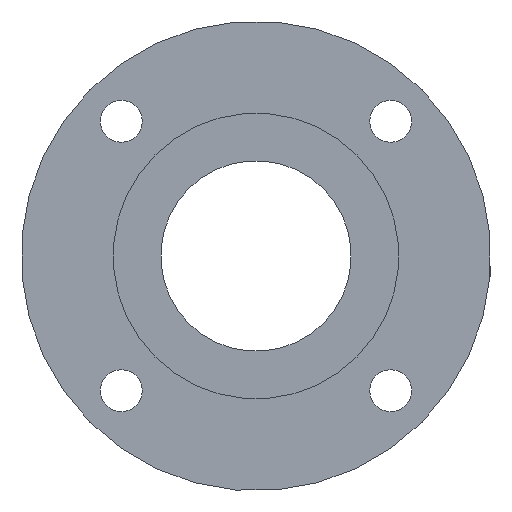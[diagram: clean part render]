
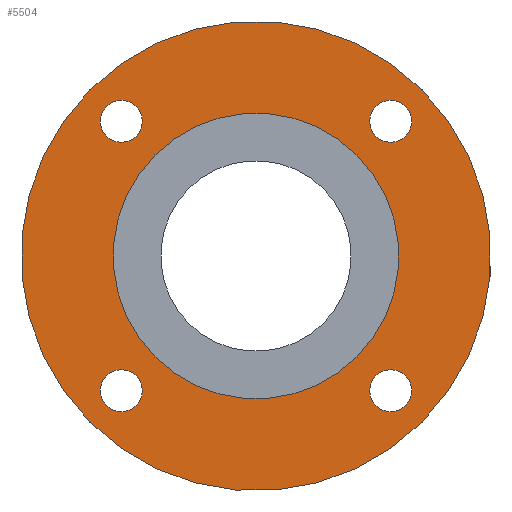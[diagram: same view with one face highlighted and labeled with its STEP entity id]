
A CAD part, left-side view. The second image highlights one B-rep face of the part: STEP entity #5504.
In plain terms, the highlighted planar face has unit normal (-1, 0, 0).
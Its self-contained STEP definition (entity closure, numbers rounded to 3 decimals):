
#111=CIRCLE('',#5855,22.5);
#113=CIRCLE('',#5860,3.3);
#114=CIRCLE('',#5861,3.3);
#115=CIRCLE('',#5862,3.3);
#116=CIRCLE('',#5863,3.3);
#117=CIRCLE('',#5864,37.);
#504=ORIENTED_EDGE('',*,*,#2087,.T.);
#505=ORIENTED_EDGE('',*,*,#2088,.T.);
#506=ORIENTED_EDGE('',*,*,#2089,.T.);
#507=ORIENTED_EDGE('',*,*,#2090,.T.);
#508=ORIENTED_EDGE('',*,*,#2091,.F.);
#509=ORIENTED_EDGE('',*,*,#2085,.T.);
#2085=EDGE_CURVE('',#2878,#2878,#111,.T.);
#2087=EDGE_CURVE('',#2880,#2880,#113,.T.);
#2088=EDGE_CURVE('',#2881,#2881,#114,.T.);
#2089=EDGE_CURVE('',#2882,#2882,#115,.T.);
#2090=EDGE_CURVE('',#2883,#2883,#116,.T.);
#2091=EDGE_CURVE('',#2884,#2884,#117,.T.);
#2878=VERTEX_POINT('',#8740);
#2880=VERTEX_POINT('',#8747);
#2881=VERTEX_POINT('',#8749);
#2882=VERTEX_POINT('',#8751);
#2883=VERTEX_POINT('',#8753);
#2884=VERTEX_POINT('',#8755);
#4507=EDGE_LOOP('',(#504));
#4508=EDGE_LOOP('',(#505));
#4509=EDGE_LOOP('',(#506));
#4510=EDGE_LOOP('',(#507));
#4511=EDGE_LOOP('',(#508));
#4512=EDGE_LOOP('',(#509));
#4906=FACE_BOUND('',#4507,.T.);
#4907=FACE_BOUND('',#4508,.T.);
#4908=FACE_BOUND('',#4509,.T.);
#4909=FACE_BOUND('',#4510,.T.);
#4910=FACE_BOUND('',#4511,.T.);
#4911=FACE_BOUND('',#4512,.T.);
#5253=PLANE('',#5859);
#5504=ADVANCED_FACE('',(#4906,#4907,#4908,#4909,#4910,#4911),#5253,.F.);
#5855=AXIS2_PLACEMENT_3D('',#8739,#6358,#6359);
#5859=AXIS2_PLACEMENT_3D('',#8745,#6366,#6367);
#5860=AXIS2_PLACEMENT_3D('',#8746,#6368,#6369);
#5861=AXIS2_PLACEMENT_3D('',#8748,#6370,#6371);
#5862=AXIS2_PLACEMENT_3D('',#8750,#6372,#6373);
#5863=AXIS2_PLACEMENT_3D('',#8752,#6374,#6375);
#5864=AXIS2_PLACEMENT_3D('',#8754,#6376,#6377);
#6358=DIRECTION('',(1.,0.,0.));
#6359=DIRECTION('',(0.,0.707,-0.707));
#6366=DIRECTION('',(1.,0.,0.));
#6367=DIRECTION('',(0.,0.707,-0.707));
#6368=DIRECTION('',(1.,0.,0.));
#6369=DIRECTION('',(0.,0.707,-0.707));
#6370=DIRECTION('',(1.,0.,0.));
#6371=DIRECTION('',(0.,0.707,-0.707));
#6372=DIRECTION('',(1.,0.,0.));
#6373=DIRECTION('',(0.,0.707,-0.707));
#6374=DIRECTION('',(1.,0.,0.));
#6375=DIRECTION('',(0.,0.707,-0.707));
#6376=DIRECTION('',(1.,0.,0.));
#6377=DIRECTION('',(0.,0.707,-0.707));
#8739=CARTESIAN_POINT('',(51.5,0.,0.));
#8740=CARTESIAN_POINT('',(51.5,15.91,-15.91));
#8745=CARTESIAN_POINT('',(51.5,0.,0.));
#8746=CARTESIAN_POINT('',(51.5,21.213,-21.213));
#8747=CARTESIAN_POINT('',(51.5,23.547,-23.547));
#8748=CARTESIAN_POINT('',(51.5,-21.213,-21.213));
#8749=CARTESIAN_POINT('',(51.5,-18.88,-23.547));
#8750=CARTESIAN_POINT('',(51.5,-21.213,21.213));
#8751=CARTESIAN_POINT('',(51.5,-18.88,18.88));
#8752=CARTESIAN_POINT('',(51.5,21.213,21.213));
#8753=CARTESIAN_POINT('',(51.5,23.547,18.88));
#8754=CARTESIAN_POINT('',(51.5,0.,0.));
#8755=CARTESIAN_POINT('',(51.5,26.163,-26.163));
